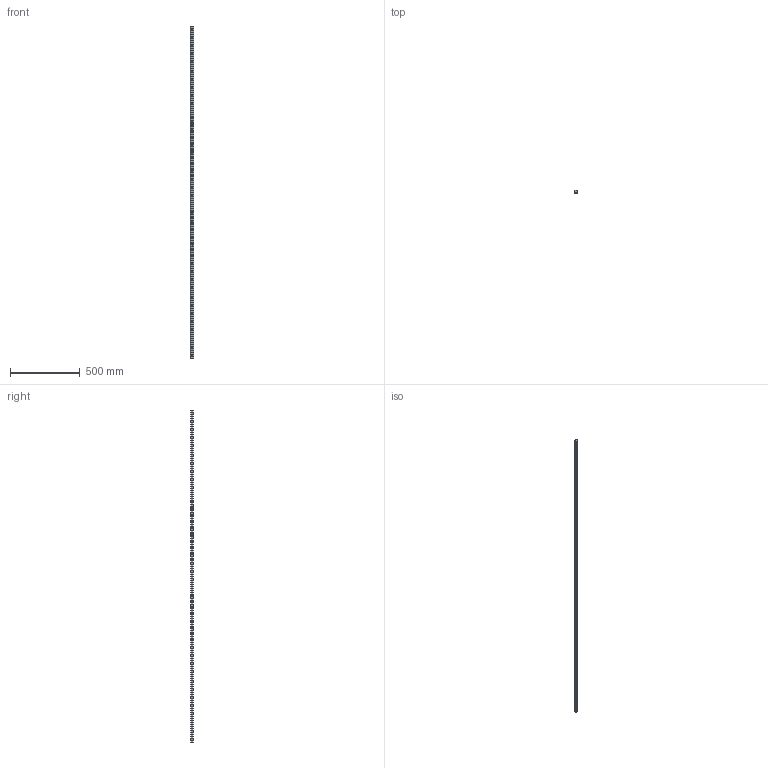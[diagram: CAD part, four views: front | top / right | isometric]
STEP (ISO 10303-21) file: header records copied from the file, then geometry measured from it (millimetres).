
FILE_DESCRIPTION (( 'STEP AP203' ), '1' );
FILE_NAME ('L1016.BRF25-2380.step', '2019-06-13T08:42:05', ( '' ), ( '' ), 'SwSTEP 2.0', 'SolidWorks 2017', '' );
FILE_SCHEMA (( 'CONFIG_CONTROL_DESIGN' ));
Length unit declared in the file: millimetre
Products named in the file (1): L1016.BRF25-2380
Bounding box: 23 x 19.2 x 2380 mm (x, y, z)
Volume: 908667.4 mm3; surface area: 219186.5 mm2
Topology: 1 solids, 1 shells, 306 faces, 712 edges, 408 vertices
Faces by surface type: cylinder 164, cone 80, plane 62
Entity records: 8261 total; most frequent: DIRECTION 1574, CARTESIAN_POINT 1347, ORIENTED_EDGE 1264, AXIS2_PLACEMENT_3D 635, EDGE_CURVE 632, VERTEX_POINT 408, EDGE_LOOP 386, CIRCLE 328
